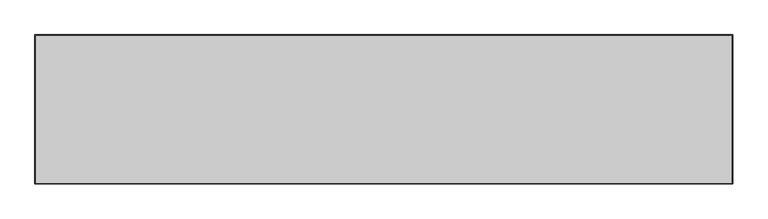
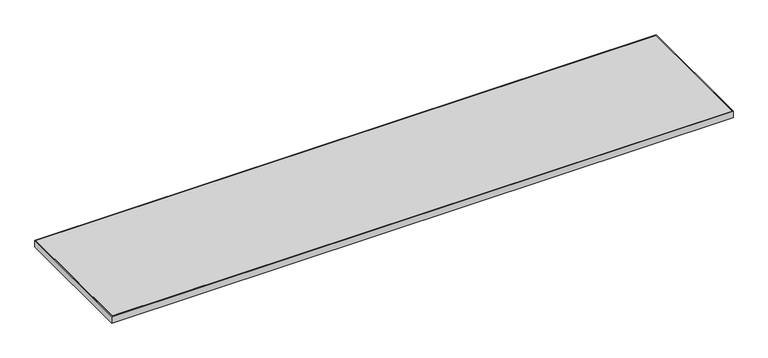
"""IFC4 building model written with IfcOpenShell, lengths in millimetres: furniture geometry, Steelcase - Universal Storage - Square Edge Top - Flush Front - Laminate : Common Top - 24D x 108W."""

from ifc_helpers import new_model, si_unit, frame, origin, place, context, project, spatial, polyline, outline, extrude, source, transform, mapped, element, save


def furniture_45276d40(model_context):
    return source(origin(), model_context, "Body", "SweptSolid", [
        extrude(outline(polyline([(2740.1520001, -3.0479999), (2740.1520001, -584.4540001), (3.0479999, -584.4540001), (3.0479999, -3.0479999), (2740.1520001, -3.0479999)])), frame((0.0, 0.0, 680.72), z_axis=(0.0, 0.0, 1.0), x_axis=(1.0, 0.0, 0.0)), (0.0, 0.0, 1.0), 30.48),
        extrude(outline(polyline([(2743.2, 0.0), (2743.2, -587.502), (0.0, -587.502), (0.0, 0.0), (2743.2, 0.0)]), holes=[polyline([(2740.1520001, -3.0479999), (3.0479999, -3.0479999), (3.0479999, -584.4540001), (2740.1520001, -584.4540001), (2740.1520001, -3.0479999)])]), frame((0.0, 0.0, 680.72), z_axis=(0.0, 0.0, 1.0), x_axis=(1.0, 0.0, 0.0)), (0.0, 0.0, 1.0), 30.48),
    ])


if __name__ == "__main__":
    model = new_model("IFC4")
    model_context = context("Model", 3, world=origin())
    ifc_project = project(units=[si_unit("LENGTHUNIT", "METRE", prefix="MILLI")], contexts=[model_context])
    site = spatial("IfcSite", under=ifc_project)
    building = spatial("IfcBuilding", under=site)
    placement = place(None, origin())
    furniture_shape = furniture_45276d40(model_context)
    element("IfcFurniture", 1, ObjectType="Steelcase - Universal Storage - Square Edge Top - Flush Front - Laminate : Common Top - 24D x 108W", at=placement, inside=building, context=model_context, shape_type="MappedRepresentation", body=[
        mapped(furniture_shape, transform((0.0, 0.0, 0.0), x_axis=(1.0, 0.0, 0.0), y_axis=(0.0, 1.0, 0.0), z_axis=(0.0, 0.0, 1.0))),
    ])
    save(model, "model.ifc")
